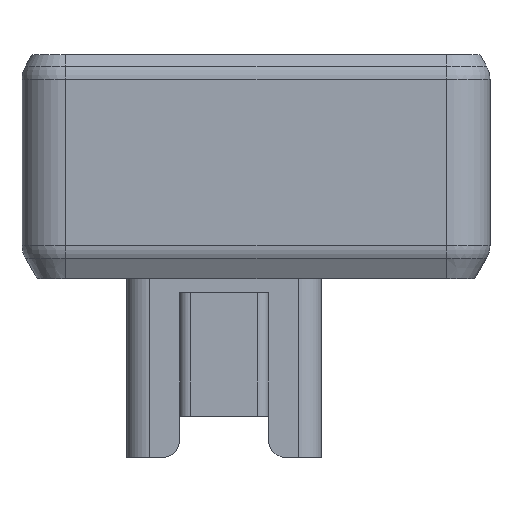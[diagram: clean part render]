
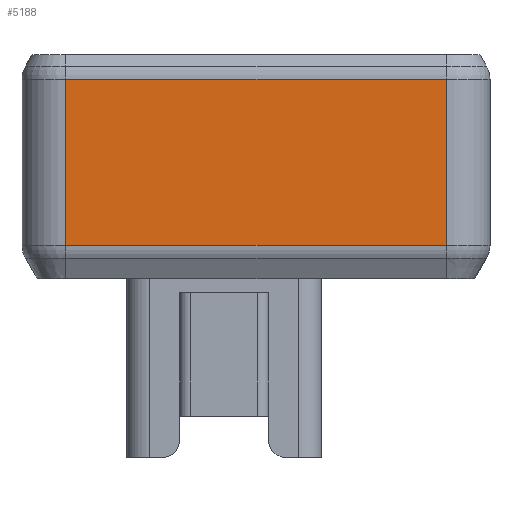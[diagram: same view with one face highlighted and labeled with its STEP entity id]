
A CAD part, left-side view. The second image highlights one B-rep face of the part: STEP entity #5188.
In plain terms, the highlighted planar face has unit normal (-1, 0, 0).
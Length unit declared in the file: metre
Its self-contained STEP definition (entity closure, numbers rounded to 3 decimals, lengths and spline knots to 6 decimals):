
#182 = DIRECTION ( 'NONE',  ( -1., 0., 0. ) ) ;
#208 = CARTESIAN_POINT ( 'NONE',  ( 0., 0.005, 0.004496 ) ) ;
#445 = AXIS2_PLACEMENT_3D ( 'NONE', #5406, #182, #1223 ) ;
#519 = EDGE_CURVE ( 'NONE', #5550, #1062, #3983, .T. ) ;
#666 = VECTOR ( 'NONE', #5384, 1. ) ;
#759 = EDGE_LOOP ( 'NONE', ( #792, #3620, #5125, #1930 ) ) ;
#778 = CARTESIAN_POINT ( 'NONE',  ( 0., 0.0267, 0.004496 ) ) ;
#792 = ORIENTED_EDGE ( 'NONE', *, *, #6288, .T. ) ;
#903 = VECTOR ( 'NONE', #1148, 1. ) ;
#1062 = VERTEX_POINT ( 'NONE', #6415 ) ;
#1120 = CARTESIAN_POINT ( 'NONE',  ( 0., 0.005, -0.014446 ) ) ;
#1148 = DIRECTION ( 'NONE',  ( 0., 0., -1. ) ) ;
#1223 = DIRECTION ( 'NONE',  ( 0., 0., 1. ) ) ;
#1650 = CARTESIAN_POINT ( 'NONE',  ( 0., 0., -0.014446 ) ) ;
#1803 = CARTESIAN_POINT ( 'NONE',  ( 0., 0.0484, 0.0073 ) ) ;
#1812 = DIRECTION ( 'NONE',  ( 0., 1., 0. ) ) ;
#1923 = EDGE_CURVE ( 'NONE', #5066, #3927, #3312, .T. ) ;
#1930 = ORIENTED_EDGE ( 'NONE', *, *, #1923, .T. ) ;
#1992 = VECTOR ( 'NONE', #5829, 1. ) ;
#2248 = VECTOR ( 'NONE', #1812, 1. ) ;
#3312 = LINE ( 'NONE', #1650, #666 ) ;
#3620 = ORIENTED_EDGE ( 'NONE', *, *, #519, .T. ) ;
#3714 = CARTESIAN_POINT ( 'NONE',  ( 0., 0.005, 0.0073 ) ) ;
#3812 = LINE ( 'NONE', #1803, #903 ) ;
#3927 = VERTEX_POINT ( 'NONE', #1120 ) ;
#3946 = PLANE ( 'NONE',  #445 ) ;
#3983 = LINE ( 'NONE', #778, #2248 ) ;
#4703 = CARTESIAN_POINT ( 'NONE',  ( 0., 0.0484, -0.014446 ) ) ;
#4744 = LINE ( 'NONE', #3714, #1992 ) ;
#4882 = FACE_OUTER_BOUND ( 'NONE', #759, .T. ) ;
#5066 = VERTEX_POINT ( 'NONE', #4703 ) ;
#5125 = ORIENTED_EDGE ( 'NONE', *, *, #5623, .T. ) ;
#5188 = ADVANCED_FACE ( 'NONE', ( #4882 ), #3946, .T. ) ;
#5384 = DIRECTION ( 'NONE',  ( 0., -1., 0. ) ) ;
#5406 = CARTESIAN_POINT ( 'NONE',  ( 0., 0.0267, 0.0073 ) ) ;
#5550 = VERTEX_POINT ( 'NONE', #208 ) ;
#5623 = EDGE_CURVE ( 'NONE', #1062, #5066, #3812, .T. ) ;
#5829 = DIRECTION ( 'NONE',  ( 0., 0., 1. ) ) ;
#6288 = EDGE_CURVE ( 'NONE', #3927, #5550, #4744, .T. ) ;
#6415 = CARTESIAN_POINT ( 'NONE',  ( 0., 0.0484, 0.004496 ) ) ;
